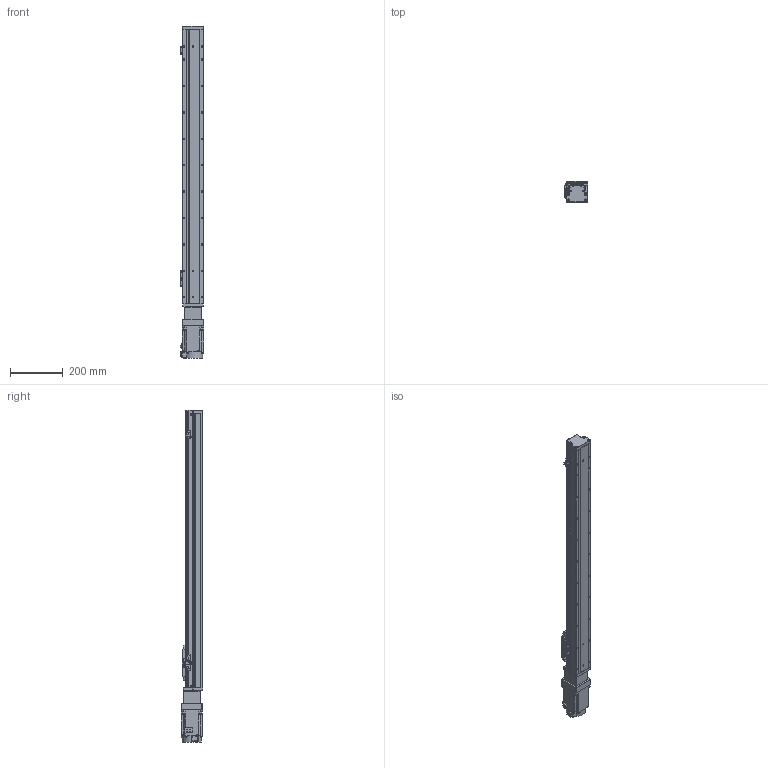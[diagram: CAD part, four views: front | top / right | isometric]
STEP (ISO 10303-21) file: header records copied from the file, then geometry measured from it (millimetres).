
FILE_DESCRIPTION (( 'STEP AP203' ), '1' );
FILE_NAME ('GTH8-850-BC-M75-C4.step', '2023-02-14T02:21:04', ( '微软用户' ), ( '微软中国' ), 'SwSTEP 2.0', 'SolidWorks 2020', '' );
FILE_SCHEMA (( 'CONFIG_CONTROL_DESIGN' ));
Length unit declared in the file: millimetre
Products named in the file (19): CTHA86-006-1_CTHA86-006-4; GTH80-003; GBT 70.1-M4×16; CTHA86-013; GTH80-004; GTH80-028; CTHA86-027; GTH80-006; GTH50-024; hg-kn73j_-s100; GTH80-013; GTH50-023; GTH8-850-BC-M75-C4; GBT 70.3-M3℅6; GBT96.1-2002 3×0.8; GTH80-022; BTH-M3X5X6; GTH80-001_850; GBT 70.1-M3℅6
Assembly tree (60 placements, depth 2):
  GTH8-850-BC-M75-C4
    GTH80-001_850
    GTH80-003
    GTH80-004
    GTH80-006
    GTH80-013
    GBT 70.3-M3℅6  x6
    GTH80-022
    GBT 70.1-M3℅6  x14
    GBT 70.1-M4×16  x8
    GTH80-028  x2
    GTH50-024  x3
    GTH50-023  x3
    GBT96.1-2002 3×0.8  x6
    BTH-M3X5X6  x8
    CTHA86-006-1_CTHA86-006-4
    CTHA86-013
    CTHA86-027
    hg-kn73j_-s100
Bounding box: 89.8 x 81.72 x 1257.2 mm (x, y, z)
Volume: 5727551.8 mm3; surface area: 560990.2 mm2
Topology: 62 solids, 62 shells, 2269 faces, 5234 edges, 3192 vertices
Faces by surface type: plane 1185, cylinder 627, cone 285, torus 162, sphere 8, bspline 2
Entity records: 40081 total; most frequent: DIRECTION 6615, CARTESIAN_POINT 6602, ORIENTED_EDGE 6058, EDGE_CURVE 3029, AXIS2_PLACEMENT_3D 2323, LINE 1969, VECTOR 1969, VERTEX_POINT 1905
